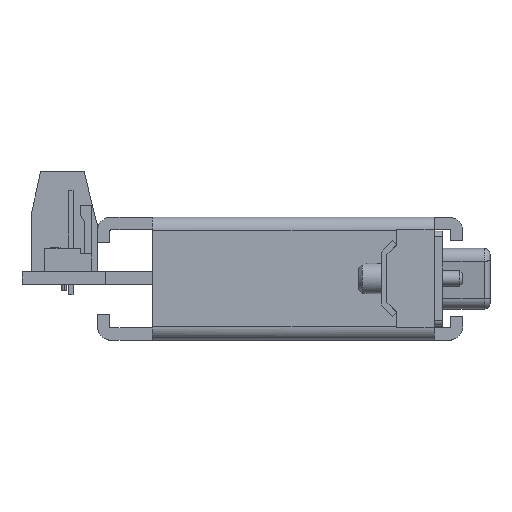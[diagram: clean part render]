
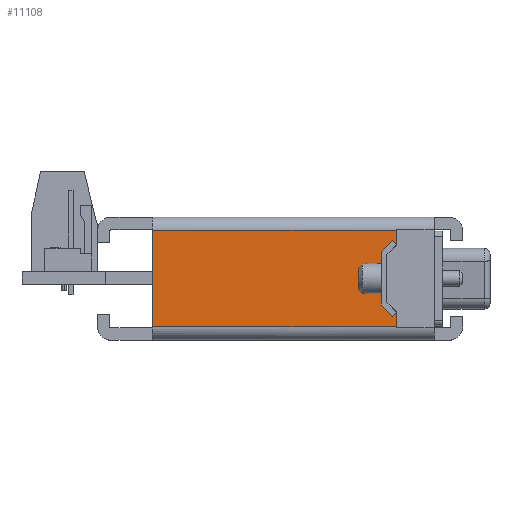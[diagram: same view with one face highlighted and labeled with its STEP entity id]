
A CAD part, top view. The second image highlights one B-rep face of the part: STEP entity #11108.
In plain terms, the highlighted planar face has unit normal (0, 0, 1) as drawn and (0, 0, -1) by its records, which use the part's own axes.
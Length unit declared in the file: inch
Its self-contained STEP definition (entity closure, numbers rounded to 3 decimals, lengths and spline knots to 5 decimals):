
#6784=DIRECTION('',(0.,1.,0.));
#6785=VECTOR('',#6784,0.51);
#6786=CARTESIAN_POINT('',(1.49,-0.255,-0.4));
#6787=LINE('',#6786,#6785);
#7351=DIRECTION('',(0.,1.,0.));
#7352=VECTOR('',#7351,0.08);
#7353=CARTESIAN_POINT('',(0.2,-0.255,-0.4));
#7354=LINE('',#7353,#7352);
#7355=DIRECTION('',(-1.,0.,0.));
#7356=VECTOR('',#7355,1.29);
#7357=CARTESIAN_POINT('',(1.49,0.255,-0.4));
#7358=LINE('',#7357,#7356);
#7359=DIRECTION('',(0.,-1.,0.));
#7360=VECTOR('',#7359,0.08);
#7361=CARTESIAN_POINT('',(0.2,0.255,-0.4));
#7362=LINE('',#7361,#7360);
#7363=DIRECTION('',(-0.707,0.707,0.));
#7364=VECTOR('',#7363,0.07071);
#7365=CARTESIAN_POINT('',(0.25,0.125,-0.4));
#7366=LINE('',#7365,#7364);
#7367=DIRECTION('',(0.,1.,0.));
#7368=VECTOR('',#7367,0.25);
#7369=CARTESIAN_POINT('',(0.25,-0.125,-0.4));
#7370=LINE('',#7369,#7368);
#7371=DIRECTION('',(0.707,0.707,0.));
#7372=VECTOR('',#7371,0.07071);
#7373=CARTESIAN_POINT('',(0.2,-0.175,-0.4));
#7374=LINE('',#7373,#7372);
#7379=DIRECTION('',(-1.,0.,0.));
#7380=VECTOR('',#7379,1.29);
#7381=CARTESIAN_POINT('',(1.49,-0.255,-0.4));
#7382=LINE('',#7381,#7380);
#9573=CARTESIAN_POINT('',(1.49,0.255,-0.4));
#9575=VERTEX_POINT('',#9573);
#9577=CARTESIAN_POINT('',(1.49,-0.255,-0.4));
#9578=VERTEX_POINT('',#9577);
#9805=CARTESIAN_POINT('',(0.2,0.255,-0.4));
#9807=VERTEX_POINT('',#9805);
#9809=CARTESIAN_POINT('',(0.2,-0.255,-0.4));
#9810=CARTESIAN_POINT('',(0.2,-0.175,-0.4));
#9811=VERTEX_POINT('',#9809);
#9812=VERTEX_POINT('',#9810);
#9813=CARTESIAN_POINT('',(0.25,-0.125,-0.4));
#9814=VERTEX_POINT('',#9813);
#9815=CARTESIAN_POINT('',(0.25,0.125,-0.4));
#9816=VERTEX_POINT('',#9815);
#9817=CARTESIAN_POINT('',(0.2,0.175,-0.4));
#9818=VERTEX_POINT('',#9817);
#11088=CARTESIAN_POINT('',(0.,0.255,-0.4));
#11089=DIRECTION('',(0.,0.,-1.));
#11090=DIRECTION('',(0.,-1.,0.));
#11091=AXIS2_PLACEMENT_3D('',#11088,#11089,#11090);
#11092=PLANE('',#11091);
#11093=ORIENTED_EDGE('',*,*,#11078,.F.);
#11095=ORIENTED_EDGE('',*,*,#11094,.F.);
#11096=ORIENTED_EDGE('',*,*,#10605,.T.);
#11097=ORIENTED_EDGE('',*,*,#10984,.T.);
#11099=ORIENTED_EDGE('',*,*,#11098,.T.);
#11101=ORIENTED_EDGE('',*,*,#11100,.F.);
#11103=ORIENTED_EDGE('',*,*,#11102,.F.);
#11105=ORIENTED_EDGE('',*,*,#11104,.F.);
#11106=EDGE_LOOP('',(#11093,#11095,#11096,#11097,#11099,#11101,#11103,#11105));
#11107=FACE_OUTER_BOUND('',#11106,.F.);
#11108=ADVANCED_FACE('',(#11107),#11092,.T.);
#10605=EDGE_CURVE('',#9578,#9575,#6787,.T.);
#10984=EDGE_CURVE('',#9575,#9807,#7358,.T.);
#11078=EDGE_CURVE('',#9811,#9812,#7354,.T.);
#11094=EDGE_CURVE('',#9578,#9811,#7382,.T.);
#11098=EDGE_CURVE('',#9807,#9818,#7362,.T.);
#11100=EDGE_CURVE('',#9816,#9818,#7366,.T.);
#11102=EDGE_CURVE('',#9814,#9816,#7370,.T.);
#11104=EDGE_CURVE('',#9812,#9814,#7374,.T.);
